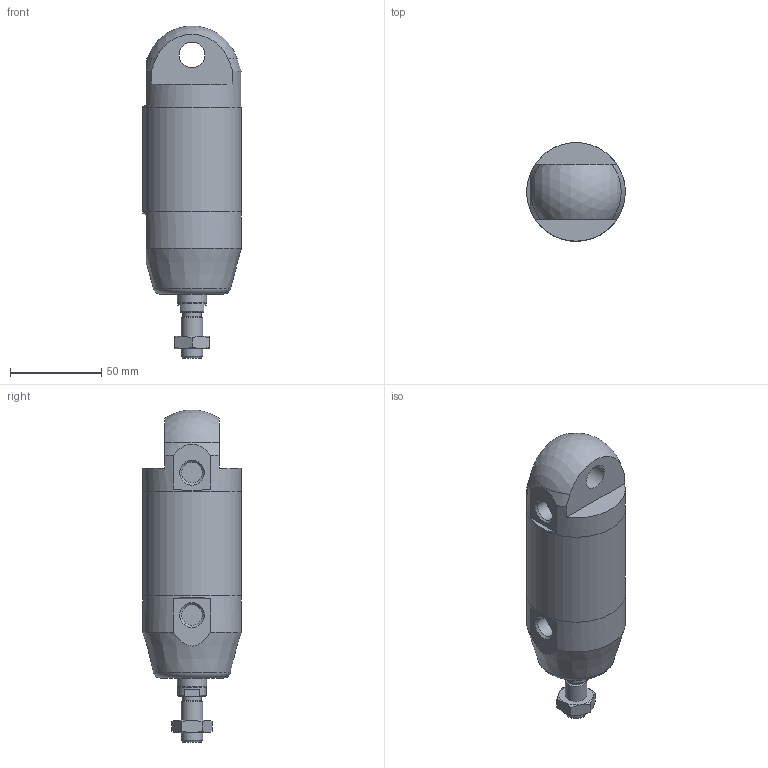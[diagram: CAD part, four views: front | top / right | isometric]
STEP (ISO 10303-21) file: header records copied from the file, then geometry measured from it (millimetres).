
FILE_DESCRIPTION(/* description */ (''),/* implementation_level */ '2;1');
FILE_NAME(/* name */ 'I:\Area Tecnica\Documenti\A-Manieri\_Inventor\12X\12X#A_###_####_#_#\12XAA_050_0015_#_#.stp',/* time_stamp */ '2015-04-22T12:08:45+02:00',/* author */ ('maniean1'),/* organization */ ('Pneumax S.p.A.'),/* preprocessor_version */ 'ST-DEVELOPER v15.2',/* originating_system */ 'Autodesk Inventor 2014',/* authorisation */ '');
FILE_SCHEMA (('AUTOMOTIVE_DESIGN { 1 0 10303 214 3 1 1 }'));
Length unit declared in the file: millimetre
Products named in the file (6): C1250_619-0015; 12X50_613; 12X50_605; S12X50_0015; 12X_50_11; 12XAA_050_0015_#_#
Bounding box: 54 x 54 x 181.83 mm (x, y, z)
Volume: 262064.3 mm3; surface area: 59336.5 mm2
Topology: 5 solids, 5 shells, 59 faces, 126 edges, 81 vertices
Faces by surface type: plane 31, cylinder 14, cone 12, torus 1, sphere 1
Full cylindrical faces by diameter (mm): 10.2 x1, 11.4 x2, 12 x2, 14 x2, 15.6 x1, 16 x1, 50 x2, 54 x3
Entity records: 1560 total; most frequent: CARTESIAN_POINT 288, DIRECTION 266, ORIENTED_EDGE 196, AXIS2_PLACEMENT_3D 120, EDGE_CURVE 98, EDGE_LOOP 94, VERTEX_POINT 76, ADVANCED_FACE 59
